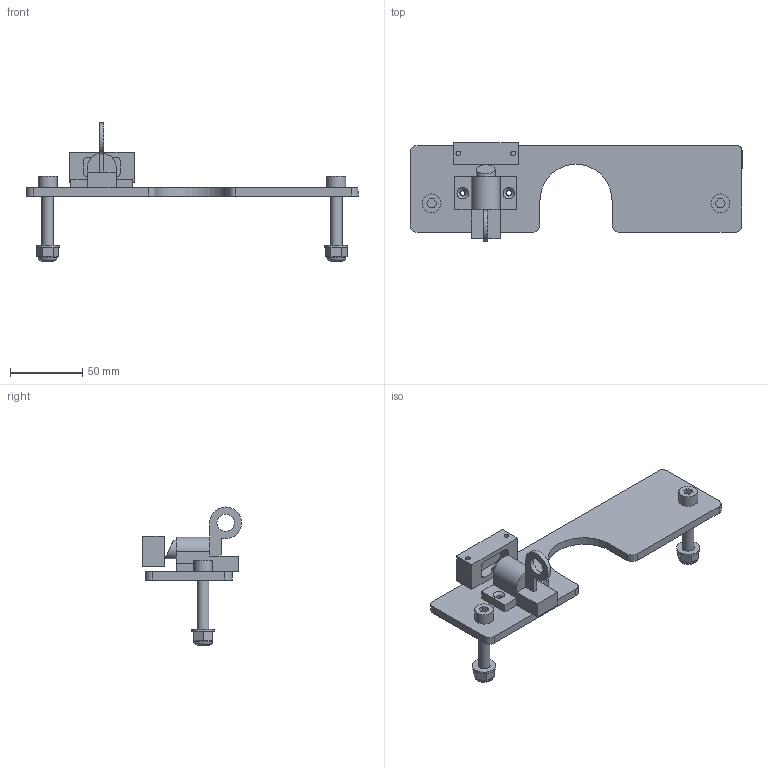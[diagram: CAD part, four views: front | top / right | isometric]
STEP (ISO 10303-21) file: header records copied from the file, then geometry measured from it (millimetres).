
FILE_DESCRIPTION(('STEP AP214'),'1');
FILE_NAME('Erweiterung_Klappmechanismus_v1.0.stp','2024-03-06T15:32:08',(' '),(' '),'Spatial InterOp 3D',' ',' ');
FILE_SCHEMA(('AUTOMOTIVE_DESIGN { 1 0 10303 214 1 1 1 1 }'));
Length unit declared in the file: metre
Products named in the file (11): LukenSchnapper; LukenSchnapper Geometry; Komponente163; schnapper; block; Rahmenbefestigung; Rahmenbefestigung Geometry; M8x45; M8 Sicheungsmutter; M8 Unterlegscheibe; Erweiterung_Klappmechanismus_v1.0
Assembly tree (13 placements, depth 4):
  Erweiterung_Klappmechanismus_v1.0
    schnapper
      LukenSchnapper
        LukenSchnapper Geometry
        Komponente163
      block
      Rahmenbefestigung
        Rahmenbefestigung Geometry
        M8x45  x2
        M8 Sicheungsmutter  x2
        M8 Unterlegscheibe  x2
Bounding box: 230 x 68.49 x 95.64 mm (x, y, z)
Volume: 103618.5 mm3; surface area: 44821.9 mm2
Topology: 10 solids, 10 shells, 134 faces, 314 edges, 206 vertices
Faces by surface type: plane 95, cylinder 35, cone 2, torus 2
Full cylindrical faces by diameter (mm): 3.3 x4, 4 x2, 8 x4, 8.4 x2, 8.5 x2, 12 x1, 13 x5, 16 x2
Entity records: 3942 total; most frequent: DIRECTION 519, CARTESIAN_POINT 508, ORIENTED_EDGE 436, EDGE_CURVE 218, AXIS2_PLACEMENT_3D 184, VERTEX_POINT 154, LINE 151, VECTOR 151
